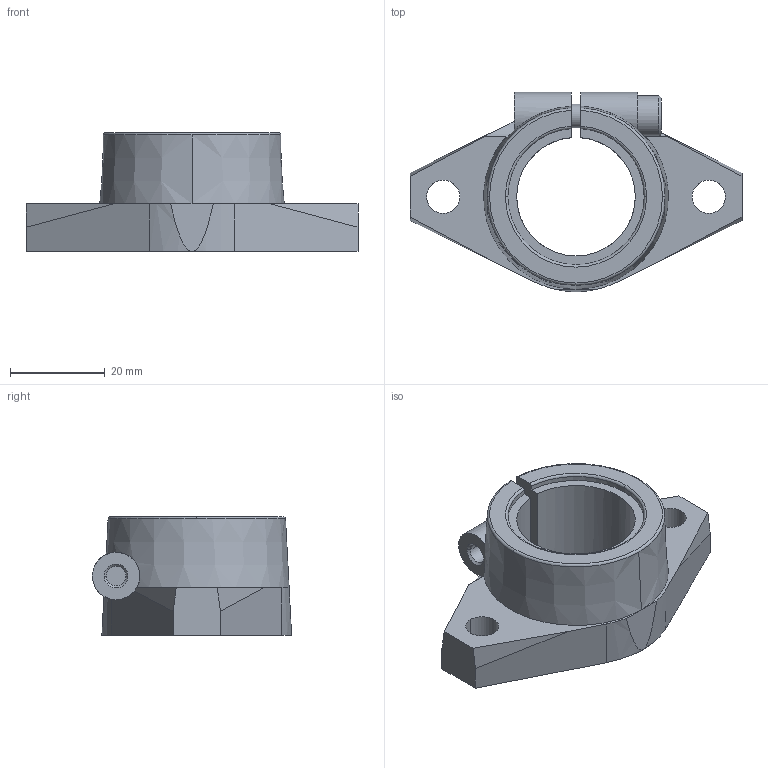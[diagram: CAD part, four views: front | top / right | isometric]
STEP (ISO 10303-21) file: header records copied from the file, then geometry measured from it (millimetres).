
FILE_DESCRIPTION (( 'STEP AP214' ), '1' );
FILE_NAME ('2.7124 Akselin päätykiinnike SHF25.STEP', '2024-06-05T08:40:23', ( '' ), ( '' ), 'SwSTEP 2.0', 'SolidWorks 2024', '' );
FILE_SCHEMA (( 'AUTOMOTIVE_DESIGN' ));
Length unit declared in the file: millimetre
Products named in the file (1): 2.7124 Akselin päätykiinnike SHF25
Bounding box: 70 x 42 x 25 mm (x, y, z)
Volume: 23230.4 mm3; surface area: 9094.2 mm2
Topology: 1 solids, 1 shells, 72 faces, 188 edges, 121 vertices
Faces by surface type: plane 31, cylinder 26, torus 9, cone 6
Entity records: 2482 total; most frequent: CARTESIAN_POINT 670, DIRECTION 383, ORIENTED_EDGE 376, EDGE_CURVE 188, AXIS2_PLACEMENT_3D 148, VERTEX_POINT 121, LINE 87, VECTOR 87
